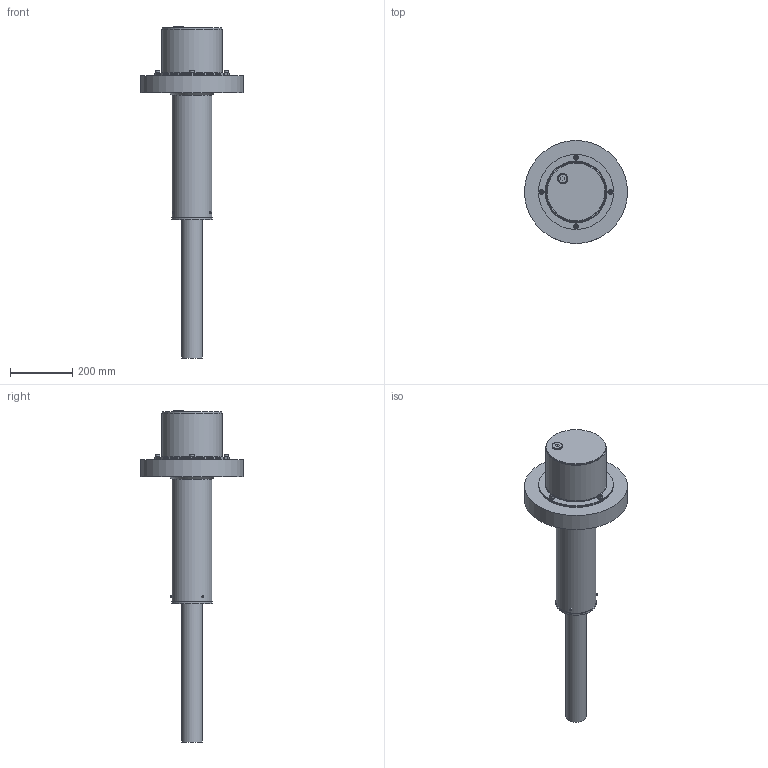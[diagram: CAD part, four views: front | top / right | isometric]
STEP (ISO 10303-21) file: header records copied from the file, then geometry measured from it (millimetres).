
FILE_DESCRIPTION(/* description */ (''),/* implementation_level */ '2;1');
FILE_NAME(/* name */ 'C:\Users\glowak\Vault\CAD-Daten\Konstruktion\02b. Geotechnik\ETA-16-0262 Ankerköpfe\Dauer\standard\ETA-16-0262.K.009.70 Dauer (standard) L9 - Schutzhaube.stp',/* time_stamp */ '2024-05-21T13:06:36+02:00',/* author */ ('gpetri'),/* organization */ (''),/* preprocessor_version */ 'ST-DEVELOPER v18.1',/* originating_system */ 'Autodesk Inventor 2021',/* authorisation */ '');
FILE_SCHEMA (('AUTOMOTIVE_DESIGN { 1 0 10303 214 3 1 1 }'));
Length unit declared in the file: millimetre
Products named in the file (1): ETA-16-0262.K.009.70 Dauer (standard) L9 - Schutzhaube_Shrinkwrap_1
Bounding box: 330 x 330 x 1063 mm (x, y, z)
Volume: 12517605.3 mm3; surface area: 921533.8 mm2
Topology: 23 solids, 23 shells, 170 faces, 344 edges, 226 vertices
Faces by surface type: plane 100, cylinder 33, cone 28, torus 9
Full cylindrical faces by diameter (mm): 6 x3, 8 x4, 13 x4, 16 x4, 26.441 x1, 32 x1, 33 x1, 66 x1, 80 x1, 116.5 x1, 127 x2, 130.5 x1, 184.7 x1, 185 x1, 190 x1, 193.7 x3, 240 x2, 330 x1
Entity records: 4656 total; most frequent: CARTESIAN_POINT 839, DIRECTION 751, ORIENTED_EDGE 672, EDGE_CURVE 336, AXIS2_PLACEMENT_3D 297, VERTEX_POINT 226, EDGE_LOOP 194, STYLED_ITEM 193
